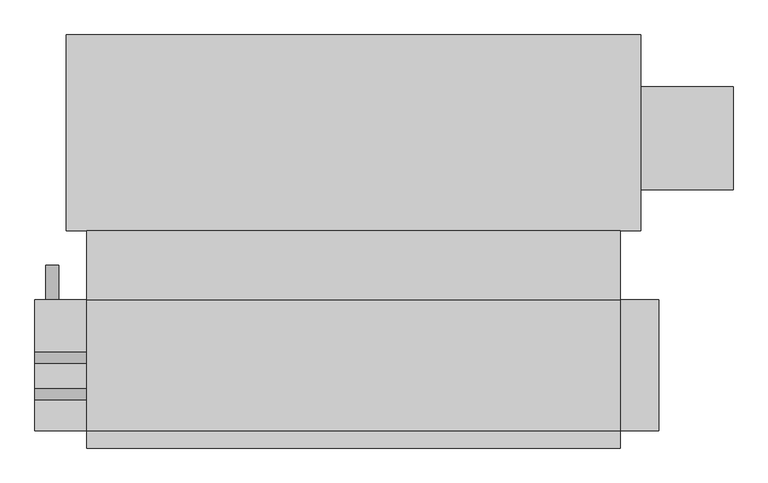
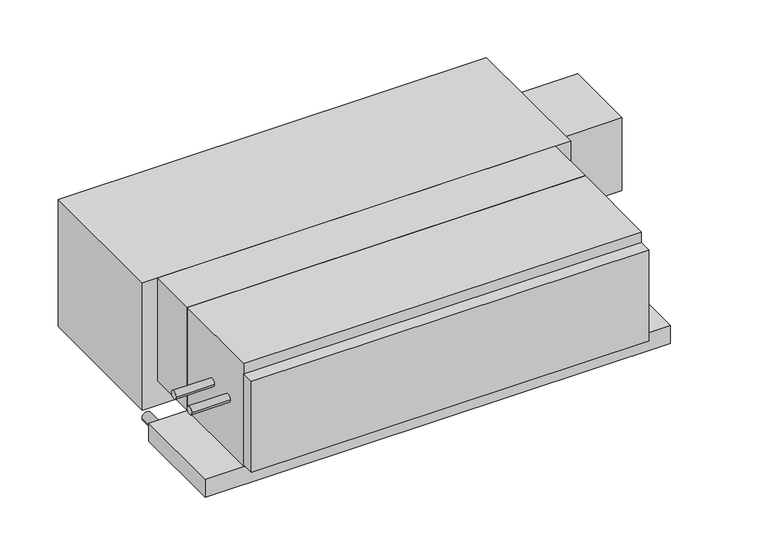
"""IFC4 building model written with IfcOpenShell, lengths in millimetres: proxy geometry, Concealed_Horizontal_Fan_Coil_Unit_With_Plenum_-_42CEA_-_CARRIER_-_2-Pipe_Cool-EHeat_LH_2022 : Size 06 - 277v/60Hz/1Ph - 4 Row 6.0kW."""

from ifc_helpers import new_model, si_unit, point, frame, frame_2d, origin, place, context, project, spatial, polyline, circle_curve, trimmed, segment, composite_curve, outline, extrude, source, transform, mapped, element, save


def mechanical_equipment_14cabf0f(model_context):
    return source(origin(), model_context, "Body", "SweptSolid", [
        extrude(outline(composite_curve([segment(trimmed(circle_curve(frame_2d((-280.9875, -104.775)), 7.9375), [point((-288.925, -104.775))], [point((-273.05, -104.775))], False, "CARTESIAN"), True, "CONTINUOUS"), segment(trimmed(circle_curve(frame_2d((-280.9875, -104.775)), 7.9375), [point((-273.05, -104.775))], [point((-288.925, -104.775))], False, "CARTESIAN"), True, "CONTINUOUS")], self_intersect=False)), frame((-317.5, 0.0, 0.0), z_axis=(1.0, 0.0, 0.0), x_axis=(0.0, 1.0, 0.0)), (0.0, 0.0, 1.0), 76.2),
        extrude(outline(composite_curve([segment(trimmed(circle_curve(frame_2d((-227.0125, -104.775)), 7.9375), [point((-234.95, -104.775))], [point((-219.075, -104.775))], False, "CARTESIAN"), True, "CONTINUOUS"), segment(trimmed(circle_curve(frame_2d((-227.0125, -104.775)), 7.9375), [point((-219.075, -104.775))], [point((-234.95, -104.775))], False, "CARTESIAN"), True, "CONTINUOUS")], self_intersect=False)), frame((-317.5, 0.0, 0.0), z_axis=(1.0, 0.0, 0.0), x_axis=(0.0, 1.0, 0.0)), (0.0, 0.0, 1.0), 76.2),
        extrude(outline(composite_curve([segment(trimmed(circle_curve(frame_2d((-241.3, -292.1)), 9.525), [point((-241.3, -301.625))], [point((-241.3, -282.575))], False, "CARTESIAN"), True, "CONTINUOUS"), segment(trimmed(circle_curve(frame_2d((-241.3, -292.1)), 9.525), [point((-241.3, -282.575))], [point((-241.3, -301.625))], False, "CARTESIAN"), True, "CONTINUOUS")], self_intersect=False)), frame((0.0, -141.2875, 0.0), z_axis=(0.0, 1.0, 0.0), x_axis=(0.0, 0.0, 1.0)), (0.0, 0.0, 1.0), 50.8),
        extrude(outline(polyline([(-241.3, -39.6875), (546.1, -39.6875), (546.1, -141.2875), (-241.3, -141.2875), (-241.3, -39.6875)])), frame((0.0, 0.0, -215.9), z_axis=(0.0, 0.0, 1.0), x_axis=(1.0, 0.0, 0.0)), (0.0, 0.0, 1.0), 215.9),
        extrude(outline(polyline([(546.1, -360.3625), (-241.3, -360.3625), (-241.3, -334.9625), (546.1, -334.9625), (546.1, -360.3625)])), frame((0.0, 0.0, -212.725), z_axis=(0.0, 0.0, 1.0), x_axis=(1.0, 0.0, 0.0)), (0.0, 0.0, 1.0), 190.5),
        extrude(outline(polyline([(712.7875, 173.0375), (712.7875, 20.6375), (576.2625, 20.6375), (576.2625, 173.0375), (712.7875, 173.0375)])), frame((0.0, 0.0, -187.325), z_axis=(0.0, 0.0, 1.0), x_axis=(1.0, 0.0, 0.0)), (0.0, 0.0, 1.0), 152.4),
        extrude(outline(polyline([(-271.4625, 249.2375), (576.2625, 249.2375), (576.2625, -39.6875), (-271.4625, -39.6875), (-271.4625, 249.2375)])), frame((0.0, 0.0, -266.7), z_axis=(0.0, 0.0, 1.0), x_axis=(1.0, 0.0, 0.0)), (0.0, 0.0, 1.0), 266.7),
        extrude(outline(polyline([(546.1, -141.2875), (546.1, -334.9625), (-241.3, -334.9625), (-241.3, -141.2875), (546.1, -141.2875)])), frame((0.0, 0.0, -215.9), z_axis=(0.0, 0.0, 1.0), x_axis=(1.0, 0.0, 0.0)), (0.0, 0.0, 1.0), 215.9),
        extrude(outline(polyline([(603.25, -141.2875), (603.25, -334.9625), (-317.5, -334.9625), (-317.5, -141.2875), (603.25, -141.2875)])), frame((0.0, 0.0, -254.0), z_axis=(0.0, 0.0, 1.0), x_axis=(1.0, 0.0, 0.0)), (0.0, 0.0, 1.0), 38.1),
    ])


if __name__ == "__main__":
    model = new_model("IFC4")
    model_context = context("Model", 3, world=origin())
    ifc_project = project(units=[si_unit("LENGTHUNIT", "METRE", prefix="MILLI")], contexts=[model_context])
    site = spatial("IfcSite", under=ifc_project)
    building = spatial("IfcBuilding", under=site)
    placement = place(None, origin())
    mechanical_equipment_shape = mechanical_equipment_14cabf0f(model_context)
    element("IfcBuildingElementProxy", 1, Name="Concealed_Horizontal_Fan_Coil_Unit_With_Plenum_-_42CEA_-_CARRIER_-_2-Pipe_Cool-EHeat_LH_2022 : Size 06 - 277v/60Hz/1Ph - 4 Row 6.0kW", ObjectType="Concealed_Horizontal_Fan_Coil_Unit_With_Plenum_-_42CEA_-_CARRIER_-_2-Pipe_Cool-EHeat_LH_2022 : Size 06 - 277v/60Hz/1Ph - 4 Row 6.0kW", at=placement, inside=building, context=model_context, shape_type="MappedRepresentation", body=[
        mapped(mechanical_equipment_shape, transform((0.0, 0.0, 0.0), x_axis=(1.0, 0.0, 0.0), y_axis=(0.0, 1.0, 0.0), z_axis=(0.0, 0.0, 1.0))),
    ])
    save(model, "model.ifc")
